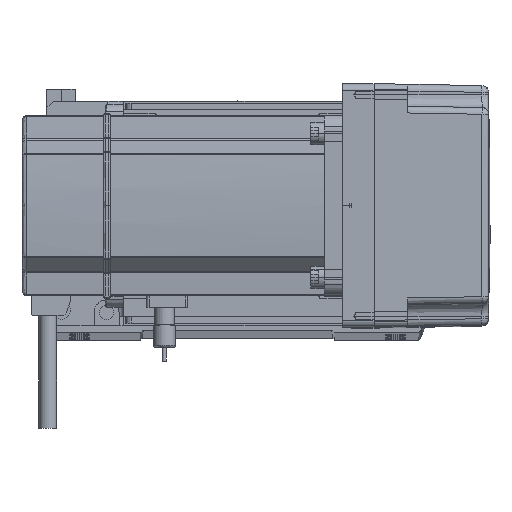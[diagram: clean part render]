
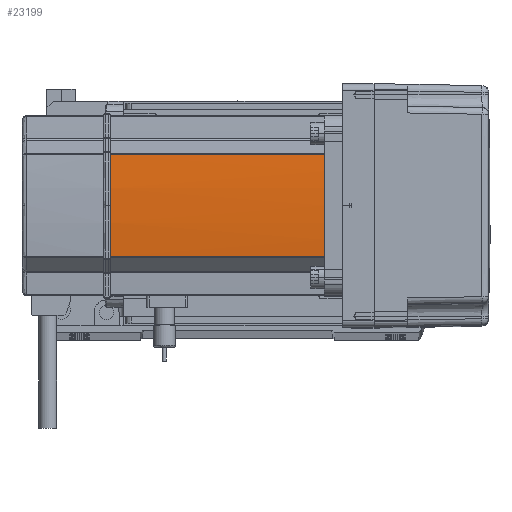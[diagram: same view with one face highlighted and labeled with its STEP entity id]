
A CAD part, top view. The second image highlights one B-rep face of the part: STEP entity #23199.
In plain terms, the highlighted cylindrical face has radius 270 mm (diameter 540 mm), a partial arc.
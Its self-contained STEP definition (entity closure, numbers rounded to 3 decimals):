
#1837 = DIRECTION ( 'NONE',  ( 0., 0., -1. ) ) ;
#1999 = VERTEX_POINT ( 'NONE', #37256 ) ;
#2534 = CARTESIAN_POINT ( 'NONE',  ( 230., 0., 134. ) ) ;
#2675 = CARTESIAN_POINT ( 'NONE',  ( 230., 0., 134. ) ) ;
#5835 = DIRECTION ( 'NONE',  ( 0., 0., 1. ) ) ;
#7465 = VERTEX_POINT ( 'NONE', #36558 ) ;
#7803 = ORIENTED_EDGE ( 'NONE', *, *, #18469, .T. ) ;
#8548 = EDGE_CURVE ( 'NONE', #15604, #7465, #17246, .T. ) ;
#8937 = DIRECTION ( 'NONE',  ( 0., 0., 1. ) ) ;
#9065 = VECTOR ( 'NONE', #8937, 1000. ) ;
#13731 = CARTESIAN_POINT ( 'NONE',  ( -39.042, -22.724, 0. ) ) ;
#13858 = CYLINDRICAL_SURFACE ( 'NONE', #31150, 270. ) ;
#15604 = VERTEX_POINT ( 'NONE', #49271 ) ;
#17246 = LINE ( 'NONE', #13731, #9065 ) ;
#17325 = CIRCLE ( 'NONE', #53414, 270. ) ;
#18446 = CARTESIAN_POINT ( 'NONE',  ( -39.042, 22.724, 0. ) ) ;
#18469 = EDGE_CURVE ( 'NONE', #30778, #40975, #35153, .T. ) ;
#22978 = CARTESIAN_POINT ( 'NONE',  ( 230., 0., 39. ) ) ;
#23199 = ADVANCED_FACE ( 'NONE', ( #24260 ), #13858, .T. ) ;
#24260 = FACE_OUTER_BOUND ( 'NONE', #30721, .T. ) ;
#29808 = AXIS2_PLACEMENT_3D ( 'NONE', #2534, #45524, #44903 ) ;
#29911 = VECTOR ( 'NONE', #46884, 1000. ) ;
#30721 = EDGE_LOOP ( 'NONE', ( #60580, #47092, #7803, #58333, #48473 ) ) ;
#30778 = VERTEX_POINT ( 'NONE', #49578 ) ;
#31150 = AXIS2_PLACEMENT_3D ( 'NONE', #58285, #5835, #53039 ) ;
#32540 = DIRECTION ( 'NONE',  ( 0., 0., -1. ) ) ;
#33268 = CIRCLE ( 'NONE', #29808, 270. ) ;
#34810 = CARTESIAN_POINT ( 'NONE',  ( -39.042, 22.724, 39. ) ) ;
#35153 = LINE ( 'NONE', #18446, #29911 ) ;
#36558 = CARTESIAN_POINT ( 'NONE',  ( -39.042, -22.724, 134. ) ) ;
#37256 = CARTESIAN_POINT ( 'NONE',  ( -40., 0., 134. ) ) ;
#40975 = VERTEX_POINT ( 'NONE', #34810 ) ;
#41168 = AXIS2_PLACEMENT_3D ( 'NONE', #2675, #1837, #54888 ) ;
#44903 = DIRECTION ( 'NONE',  ( 1., 0., 0. ) ) ;
#45524 = DIRECTION ( 'NONE',  ( 0., 0., -1. ) ) ;
#45936 = CIRCLE ( 'NONE', #41168, 270. ) ;
#46884 = DIRECTION ( 'NONE',  ( 0., 0., -1. ) ) ;
#47092 = ORIENTED_EDGE ( 'NONE', *, *, #61462, .T. ) ;
#48473 = ORIENTED_EDGE ( 'NONE', *, *, #8548, .T. ) ;
#49271 = CARTESIAN_POINT ( 'NONE',  ( -39.042, -22.724, 39. ) ) ;
#49578 = CARTESIAN_POINT ( 'NONE',  ( -39.042, 22.724, 134. ) ) ;
#51428 = DIRECTION ( 'NONE',  ( 1., 0., 0. ) ) ;
#53039 = DIRECTION ( 'NONE',  ( 1., 0., 0. ) ) ;
#53414 = AXIS2_PLACEMENT_3D ( 'NONE', #22978, #32540, #51428 ) ;
#54888 = DIRECTION ( 'NONE',  ( 1., 0., 0. ) ) ;
#58159 = EDGE_CURVE ( 'NONE', #15604, #40975, #17325, .T. ) ;
#58285 = CARTESIAN_POINT ( 'NONE',  ( 230., 0., 0. ) ) ;
#58333 = ORIENTED_EDGE ( 'NONE', *, *, #58159, .F. ) ;
#60580 = ORIENTED_EDGE ( 'NONE', *, *, #60922, .T. ) ;
#60922 = EDGE_CURVE ( 'NONE', #7465, #1999, #33268, .T. ) ;
#61462 = EDGE_CURVE ( 'NONE', #1999, #30778, #45936, .T. ) ;
